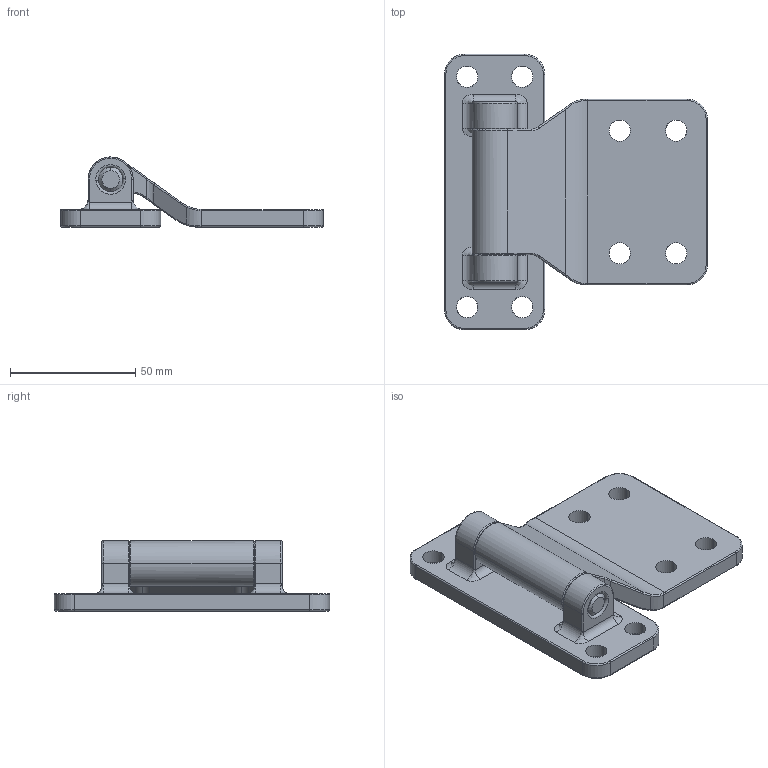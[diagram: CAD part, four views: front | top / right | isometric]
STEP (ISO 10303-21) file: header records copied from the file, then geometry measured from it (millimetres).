
FILE_DESCRIPTION (( 'STEP AP203' ), '1' );
FILE_NAME ('SZJ10104M.STEP', '2023-11-22T09:14:27', ( '' ), ( '' ), 'SwSTEP 2.0', 'SolidWorks 2020', '' );
FILE_SCHEMA (( 'CONFIG_CONTROL_DESIGN' ));
Length unit declared in the file: millimetre
Products named in the file (1): SZJ10104M
Bounding box: 105 x 110 x 28 mm (x, y, z)
Volume: 68817.8 mm3; surface area: 33582.3 mm2
Topology: 3 solids, 3 shells, 329 faces, 799 edges, 480 vertices
Faces by surface type: torus 128, cylinder 119, bspline 40, plane 36, cone 4, sphere 2
Entity records: 13784 total; most frequent: CARTESIAN_POINT 6060, DIRECTION 1721, ORIENTED_EDGE 1598, EDGE_CURVE 799, AXIS2_PLACEMENT_3D 764, VERTEX_POINT 480, CIRCLE 474, EDGE_LOOP 355
